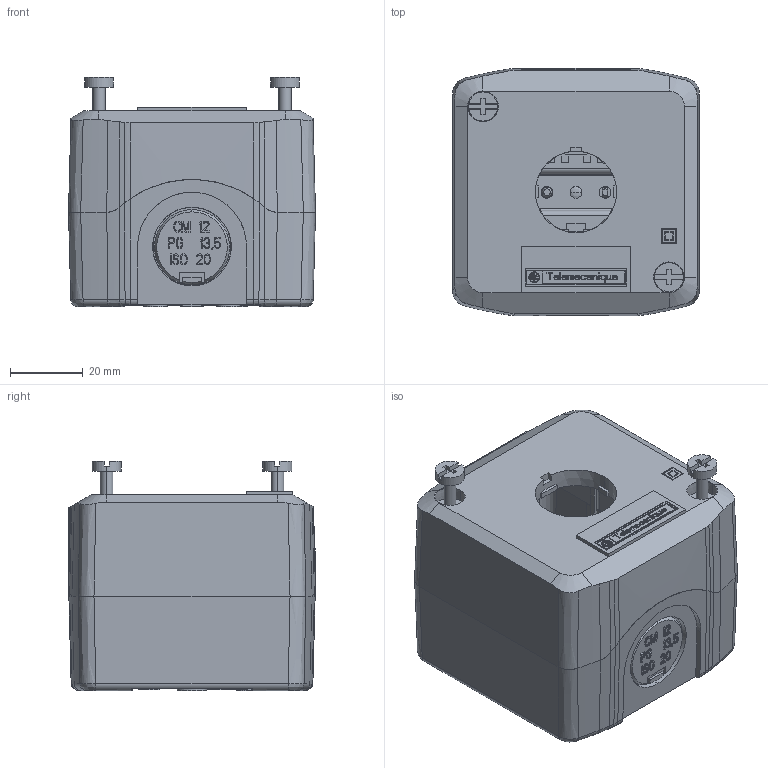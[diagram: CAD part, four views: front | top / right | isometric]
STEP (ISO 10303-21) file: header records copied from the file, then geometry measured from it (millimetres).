
FILE_DESCRIPTION((''),'2;1');
FILE_NAME('156210100AF7_ASM','2008-12-12T11:45:49',('userpim'),(''),'PRO/ENGINEER BY PARAMETRIC TECHNOLOGY CORPORATION, 2007150','PRO/ENGINEER BY PARAMETRIC TECHNOLOGY CORPORATION, 2007150','');
FILE_SCHEMA(('CONFIG_CONTROL_DESIGN'));
Length unit declared in the file: millimetre
Products named in the file (8): 156202101AF6_PRT; 156202200AF6_PRT; 156201701AF6_PRT; W115620110111_PRT; 156200201AF6_PRT; 170658001AF6_PRT; W115620100111_PRT; 156210100AF7_ASM
Assembly tree (10 placements, depth 2):
  156210100AF7_ASM
    156202101AF6_PRT
    156202200AF6_PRT
    156201701AF6_PRT
    W115620110111_PRT  x2
    156200201AF6_PRT
    170658001AF6_PRT  x2
    W115620100111_PRT  x2
Bounding box: 68 x 68 x 63.1 mm (x, y, z)
Volume: 74530.5 mm3; surface area: 82486.4 mm2
Topology: 10 solids, 14 shells, 4924 faces, 13404 edges, 8718 vertices
Faces by surface type: plane 3872, cylinder 407, cone 290, bspline 216, torus 89, sphere 46, extrusion 4
Entity records: 162262 total; most frequent: CARTESIAN_POINT 40952, ORIENTED_EDGE 26472, DIRECTION 22832, EDGE_CURVE 13240, VECTOR 11032, LINE 11028, VERTEX_POINT 8614, AXIS2_PLACEMENT_3D 5900
